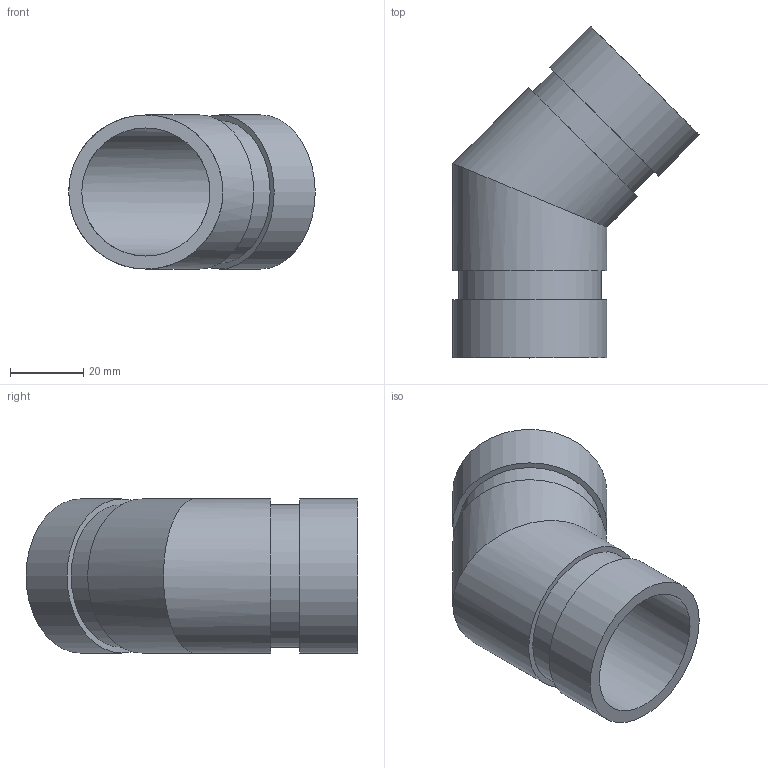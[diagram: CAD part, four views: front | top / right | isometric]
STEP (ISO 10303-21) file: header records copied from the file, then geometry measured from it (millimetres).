
FILE_DESCRIPTION(/* description */ ('VIC 45 DEG FABRICATED ELBOW No 11 SWS (OGS)','CAx-IF Rec.Pracs.---Representation and Presentation of Product Manufacturing Information (PMI)---4.0---2014-10-13'),/* implementation_level */ '2;1');
FILE_NAME(/* name */ 'C:\Users\kkamble\AppData\Roaming\Autodesk\ApplicationPlugins\Back Up\Victaulic_IPS_Elbow 45 Deg_No 11 SWS (OGS)\Victaulic_IPS_Elbow 45 Deg_No 11 SWS (OGS)_1.25 (32).stp',/* time_stamp */ '2020-09-16T22:14:12+06:00',/* author */ ('cgray'),/* organization */ ('Victaulic'),/* preprocessor_version */ 'ST-DEVELOPER v17.2',/* originating_system */ 'Autodesk Inventor 2019',/* authorisation */ '');
FILE_SCHEMA (('AP242_MANAGED_MODEL_BASED_3D_ENGINEERING_MIM_LF { 1 0 10303 442 1 1 4 }'));
Length unit declared in the file: inch
Products named in the file (1): 11 SWS-01.25
Bounding box: 67.42 x 90.79 x 42.16 mm (x, y, z)
Volume: 35125.7 mm3; surface area: 23079 mm2
Topology: 1 solids, 1 shells, 14 faces, 30 edges, 22 vertices
Faces by surface type: cylinder 8, plane 6
Full cylindrical faces by diameter (mm): 35.052 x2, 38.989 x2, 42.164 x4
Entity records: 554 total; most frequent: DIRECTION 108, CARTESIAN_POINT 84, ORIENTED_EDGE 60, AXIS2_PLACEMENT_3D 50, EDGE_CURVE 30, VERTEX_POINT 22, EDGE_LOOP 20, CIRCLE 16
